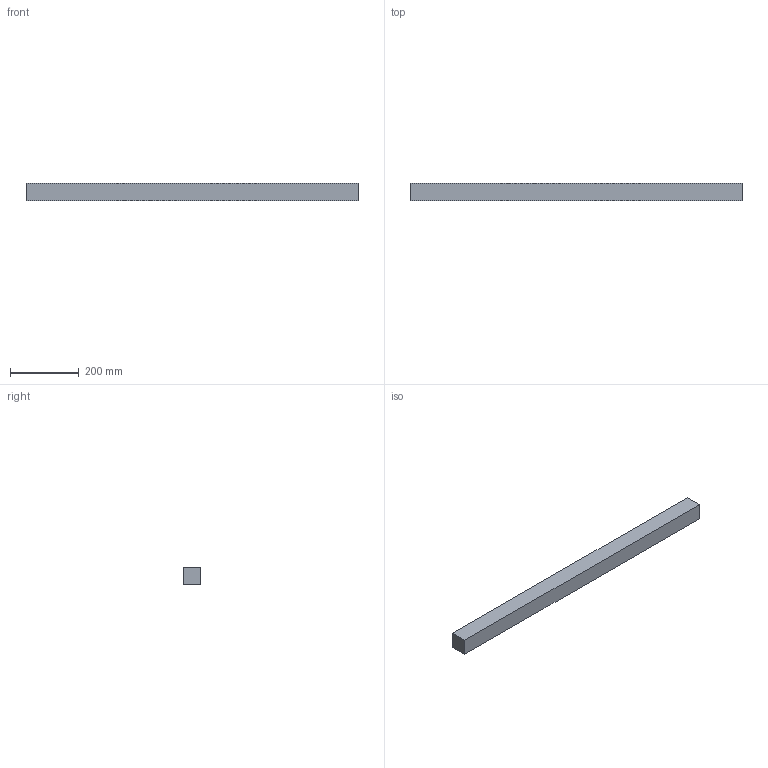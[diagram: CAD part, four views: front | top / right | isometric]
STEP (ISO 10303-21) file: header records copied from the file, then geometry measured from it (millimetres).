
FILE_DESCRIPTION(('Open CASCADE Model'),'2;1');
FILE_NAME('Open CASCADE Shape Model','2026-09-28T10:14:13',('Author'),( 'Open CASCADE'),'Open CASCADE STEP processor 7.9','Open CASCADE 7.9' ,'Unknown');
FILE_SCHEMA(('AUTOMOTIVE_DESIGN { 1 0 10303 214 1 1 1 1 }'));
Length unit declared in the file: millimetre
Products named in the file (1): Open CASCADE STEP translator 7.9 33
Bounding box: 964 x 50 x 50 mm (x, y, z)
Volume: 2410000 mm3; surface area: 197800 mm2
Topology: 1 solids, 1 shells, 6 faces, 12 edges, 8 vertices
Faces by surface type: plane 6
Entity records: 322 total; most frequent: CARTESIAN_POINT 51, DIRECTION 50, LINE 36, VECTOR 36, ORIENTED_EDGE 24, PCURVE 24, DEFINITIONAL_REPRESENTATION 24, EDGE_CURVE 12
